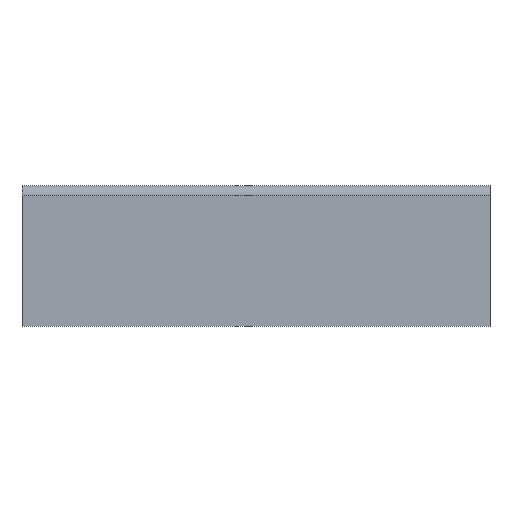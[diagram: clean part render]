
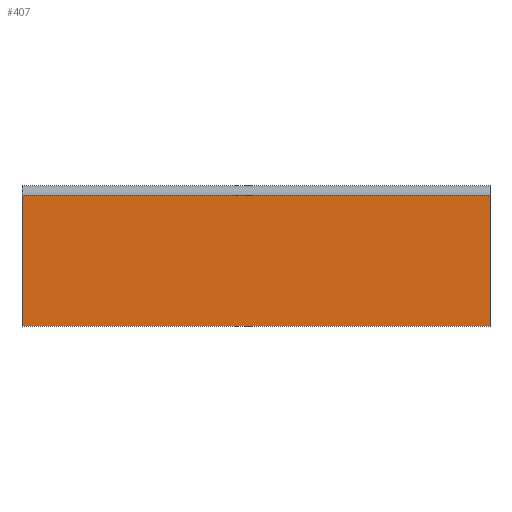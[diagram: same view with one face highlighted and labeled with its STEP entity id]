
A CAD part, left-side view. The second image highlights one B-rep face of the part: STEP entity #407.
In plain terms, the highlighted planar face has unit normal (-1, 0, 0).
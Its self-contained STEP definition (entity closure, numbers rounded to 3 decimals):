
#407 = ADVANCED_FACE( '', ( #872 ), #873, .T. );
#872 = FACE_OUTER_BOUND( '', #1392, .T. );
#873 = PLANE( '', #1393 );
#1392 = EDGE_LOOP( '', ( #2601, #2602, #2603, #2604 ) );
#1393 = AXIS2_PLACEMENT_3D( '', #2605, #2606, #2607 );
#2601 = ORIENTED_EDGE( '', *, *, #3704, .F. );
#2602 = ORIENTED_EDGE( '', *, *, #3584, .F. );
#2603 = ORIENTED_EDGE( '', *, *, #3781, .T. );
#2604 = ORIENTED_EDGE( '', *, *, #3347, .T. );
#2605 = CARTESIAN_POINT( '', ( -15., 100., 13. ) );
#2606 = DIRECTION( '', ( -1., 0., 0. ) );
#2607 = DIRECTION( '', ( 0., 0., 1. ) );
#3347 = EDGE_CURVE( '', #4083, #4080, #4084, .T. );
#3584 = EDGE_CURVE( '', #4472, #4468, #4474, .T. );
#3704 = EDGE_CURVE( '', #4468, #4080, #4647, .T. );
#3781 = EDGE_CURVE( '', #4472, #4083, #4759, .T. );
#4080 = VERTEX_POINT( '', #5138 );
#4083 = VERTEX_POINT( '', #5142 );
#4084 = LINE( '', #5143, #5144 );
#4468 = VERTEX_POINT( '', #5670 );
#4472 = VERTEX_POINT( '', #5675 );
#4474 = LINE( '', #5677, #5678 );
#4647 = LINE( '', #5927, #5928 );
#4759 = LINE( '', #6089, #6090 );
#5138 = CARTESIAN_POINT( '', ( -15., 0., -15. ) );
#5142 = CARTESIAN_POINT( '', ( -15., 100., -15. ) );
#5143 = CARTESIAN_POINT( '', ( -15., 100., -15. ) );
#5144 = VECTOR( '', #6425, 1000. );
#5670 = CARTESIAN_POINT( '', ( -15., 0., 13. ) );
#5675 = CARTESIAN_POINT( '', ( -15., 100., 13. ) );
#5677 = CARTESIAN_POINT( '', ( -15., 100., 13. ) );
#5678 = VECTOR( '', #6689, 1000. );
#5927 = CARTESIAN_POINT( '', ( -15., 0., 13. ) );
#5928 = VECTOR( '', #6805, 1000. );
#6089 = CARTESIAN_POINT( '', ( -15., 100., 13. ) );
#6090 = VECTOR( '', #6918, 1000. );
#6425 = DIRECTION( '', ( 0., -1., 0. ) );
#6689 = DIRECTION( '', ( 0., -1., 0. ) );
#6805 = DIRECTION( '', ( 0., 0., -1. ) );
#6918 = DIRECTION( '', ( 0., 0., -1. ) );
